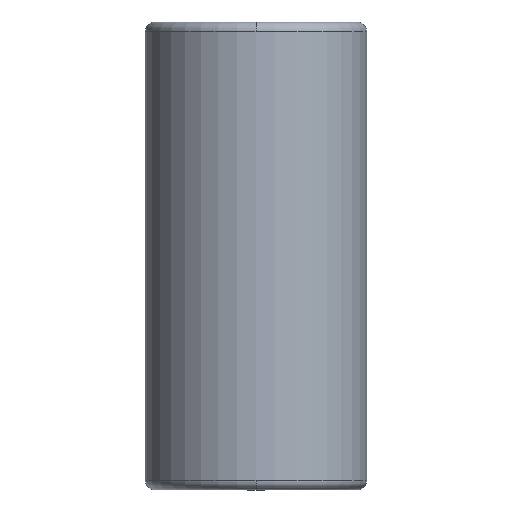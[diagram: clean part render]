
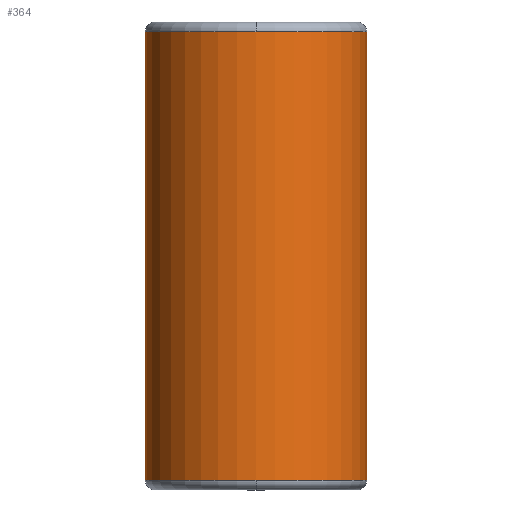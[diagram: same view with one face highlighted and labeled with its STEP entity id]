
A CAD part, front view. The second image highlights one B-rep face of the part: STEP entity #364.
In plain terms, the highlighted cylindrical face has radius 22.494 mm (diameter 44.988 mm), a partial arc.
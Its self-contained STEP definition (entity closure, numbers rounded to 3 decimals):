
#269=CARTESIAN_POINT('',(0.0,-22.494,93.0));
#270=VERTEX_POINT('',#269);
#296=CARTESIAN_POINT('',(-22.494,0.,93.0));
#297=VERTEX_POINT('',#296);
#305=CARTESIAN_POINT('',(0.0,0.,93.0));
#306=DIRECTION('',(0.0,0.0,1.0));
#307=DIRECTION('',(1.0,0.0,0.0));
#308=AXIS2_PLACEMENT_3D('',#305,#306,#307);
#309=CIRCLE('',#308,22.494);
#310=EDGE_CURVE('',#297,#270,#309,.T.);
#315=CARTESIAN_POINT('',(0.0,0.,47.5));
#316=DIRECTION('',(0.0,0.,1.0));
#317=DIRECTION('',(1.0,0.0,0.0));
#318=AXIS2_PLACEMENT_3D('',#315,#316,#317);
#319=CYLINDRICAL_SURFACE('',#318,22.494);
#320=CARTESIAN_POINT('',(22.494,0.,93.0));
#321=VERTEX_POINT('',#320);
#322=CARTESIAN_POINT('',(22.494,0.,2.));
#323=VERTEX_POINT('',#322);
#324=CARTESIAN_POINT('',(22.494,0.,93.0));
#325=DIRECTION('',(0.0,0.0,-1.0));
#326=VECTOR('',#325,91.0);
#327=LINE('',#324,#326);
#328=EDGE_CURVE('',#321,#323,#327,.T.);
#329=ORIENTED_EDGE('',*,*,#328,.F.);
#330=CARTESIAN_POINT('',(0.0,0.,93.0));
#331=DIRECTION('',(0.0,0.0,1.0));
#332=DIRECTION('',(1.0,0.0,0.0));
#333=AXIS2_PLACEMENT_3D('',#330,#331,#332);
#334=CIRCLE('',#333,22.494);
#335=EDGE_CURVE('',#270,#321,#334,.T.);
#336=ORIENTED_EDGE('',*,*,#335,.F.);
#337=ORIENTED_EDGE('',*,*,#310,.F.);
#338=CARTESIAN_POINT('',(-22.494,0.,2.0));
#339=VERTEX_POINT('',#338);
#340=CARTESIAN_POINT('',(-22.494,0.,93.0));
#341=DIRECTION('',(0.0,0.0,-1.0));
#342=VECTOR('',#341,91.0);
#343=LINE('',#340,#342);
#344=EDGE_CURVE('',#297,#339,#343,.T.);
#345=ORIENTED_EDGE('',*,*,#344,.T.);
#346=CARTESIAN_POINT('',(0.0,-22.494,2.));
#347=VERTEX_POINT('',#346);
#348=CARTESIAN_POINT('',(0.0,0.,2.0));
#349=DIRECTION('',(0.0,0.0,1.0));
#350=DIRECTION('',(1.0,0.0,0.0));
#351=AXIS2_PLACEMENT_3D('',#348,#349,#350);
#352=CIRCLE('',#351,22.494);
#353=EDGE_CURVE('',#339,#347,#352,.T.);
#354=ORIENTED_EDGE('',*,*,#353,.T.);
#355=CARTESIAN_POINT('',(0.0,0.,2.0));
#356=DIRECTION('',(0.0,0.0,1.0));
#357=DIRECTION('',(1.0,0.0,0.0));
#358=AXIS2_PLACEMENT_3D('',#355,#356,#357);
#359=CIRCLE('',#358,22.494);
#360=EDGE_CURVE('',#347,#323,#359,.T.);
#361=ORIENTED_EDGE('',*,*,#360,.T.);
#362=EDGE_LOOP('',(#329,#336,#337,#345,#354,#361));
#363=FACE_OUTER_BOUND('',#362,.T.);
#364=ADVANCED_FACE('',(#363),#319,.T.);
